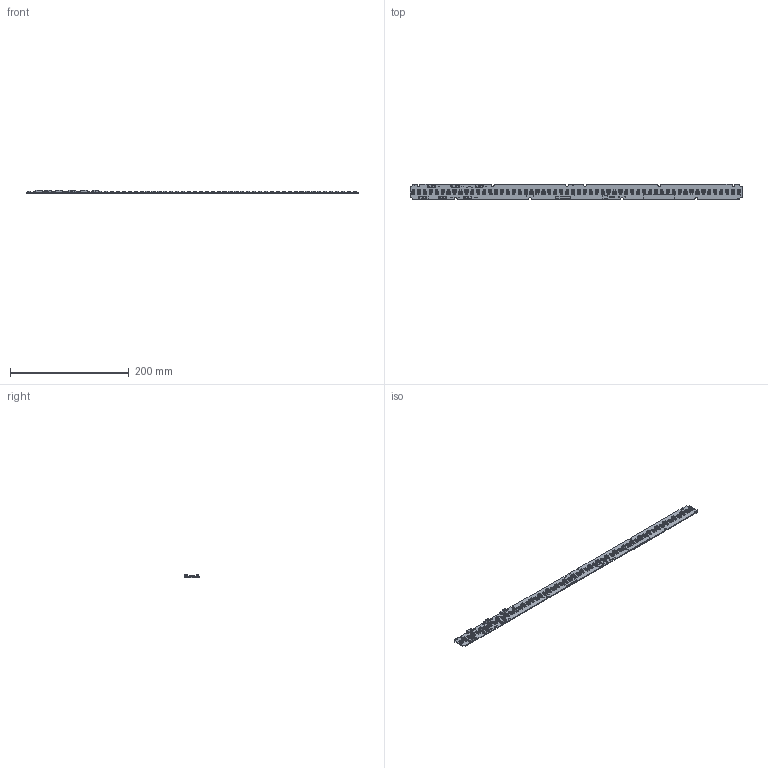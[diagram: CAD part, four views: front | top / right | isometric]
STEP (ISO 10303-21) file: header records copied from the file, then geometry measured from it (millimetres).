
FILE_DESCRIPTION (( 'STEP AP203' ), '1' );
FILE_NAME ('Q56DT-56Z-220010.STEP', '2021-06-18T16:57:29', ( '' ), ( '' ), 'SwSTEP 2.0', 'SolidWorks 2015', '' );
FILE_SCHEMA (( 'CONFIG_CONTROL_DESIGN' ));
Length unit declared in the file: inch
Products named in the file (12): RGB_LED; ROHS; FIDUCIAL_R0_5MM; Q56DT56Z2_06182021_11-22-27; LED; PLUS; MINUS; WAGO-2060-1; LABEL_BRACKET; ARKALUMEN_LOGO_25MM; Q56DT-56Z-220010; UL
Assembly tree (132 placements, depth 2):
  Q56DT-56Z-220010
    Q56DT56Z2_06182021_11-22-27
    RGB_LED  x56
    LED  x56
    ARKALUMEN_LOGO_25MM
    LABEL_BRACKET
    PLUS
    MINUS  x5
    ROHS
    UL
    FIDUCIAL_R0_5MM  x3
    WAGO-2060-1  x6
Bounding box: 559.2 x 25.4 x 6.34 mm (x, y, z)
Volume: 27511.4 mm3; surface area: 42907.3 mm2
Topology: 132 solids, 132 shells, 9260 faces, 25634 edges, 16936 vertices
Faces by surface type: plane 6664, cylinder 2478, cone 112, bspline 6
Entity records: 26681 total; most frequent: CARTESIAN_POINT 4240, DIRECTION 3747, ORIENTED_EDGE 3664, EDGE_CURVE 1832, VECTOR 1293, LINE 1293, AXIS2_PLACEMENT_3D 1227, VERTEX_POINT 1218
